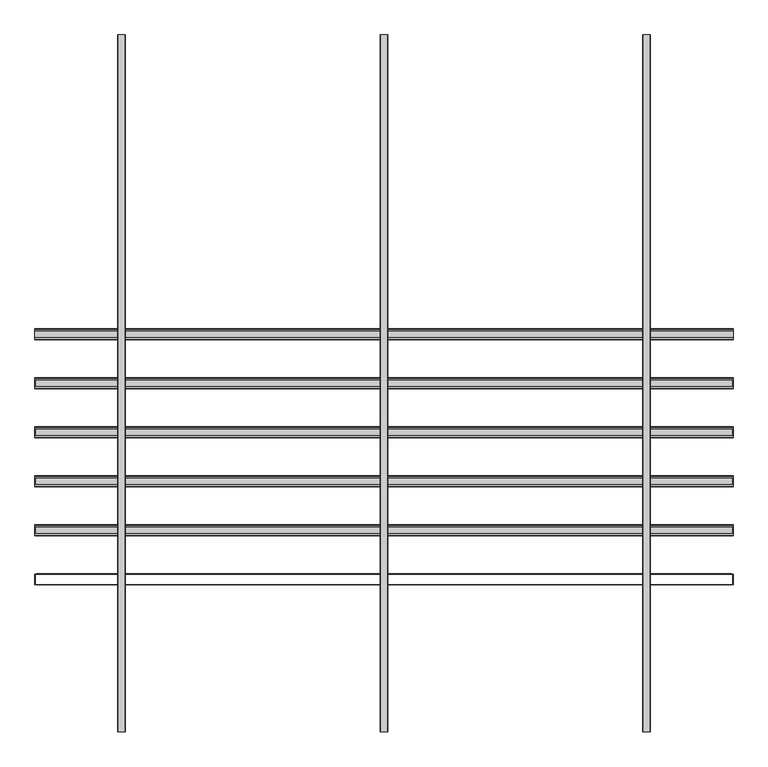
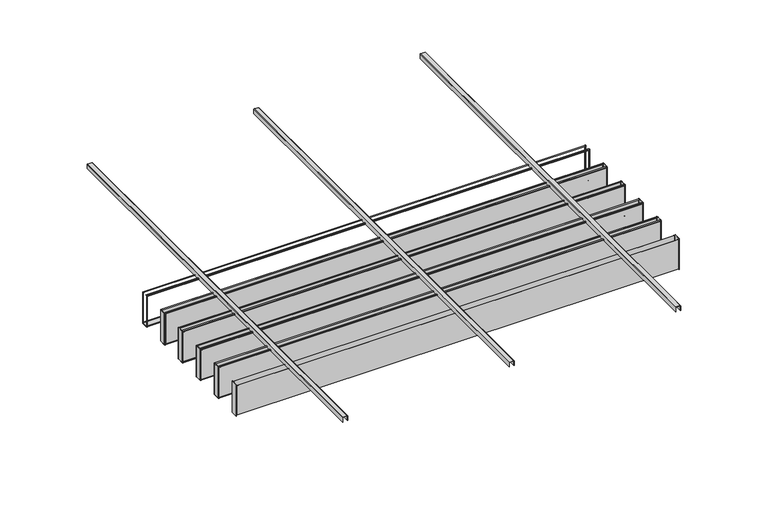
"""IFC4 building model written with IfcOpenShell, lengths in millimetres: proxy geometry, durlum_POLYLAM : durlum_POLYLAM 63."""

from ifc_helpers import new_model, si_unit, point, frame, frame_2d, origin, place, context, project, spatial, polyline, circle_curve, trimmed, segment, composite_curve, outline, extrude, source, transform, mapped, element, save
from ifc_brep_helpers import plane_surface, cylinder_surface, advanced_brep


def generic_models_d3921d50(model_context):
    return source(origin(), model_context, "Body", "SolidModel", [
        advanced_brep(
        [(1995.0, 309.5, 2016.9), (1995.0, 299.5, 2016.9), (1995.0, 299.5, 2015.9), (1995.0, 310.5, 2015.9), (1995.0, 310.5, 1717.9), (1995.0, 249.5, 1717.9), (1995.0, 249.5, 2015.8155735), (1995.0, 260.5, 2015.8155735), (1995.0, 260.5, 2016.9), (1995.0, 250.5, 2016.9), (1995.0, 248.5, 2014.9), (1995.0, 248.5, 1718.9), (1995.0, 250.5, 1716.9), (1995.0, 309.5, 1716.9), (1995.0, 311.5, 1718.9), (1995.0, 311.5, 2014.9), (-1995.0, 309.5, 2016.9), (-1995.0, 311.5, 2014.9), (-1995.0, 311.5, 1718.9), (-1995.0, 309.5, 1716.9), (-1995.0, 250.5, 1716.9), (-1995.0, 248.5, 1718.9), (-1995.0, 248.5, 2014.9), (-1995.0, 250.5, 2016.9), (-1995.0, 260.5, 2016.9), (-1995.0, 260.5, 2015.8155735), (-1995.0, 249.5, 2015.8155735), (-1995.0, 249.5, 1717.9), (-1995.0, 310.5, 1717.9), (-1995.0, 310.5, 2015.9), (-1995.0, 299.5, 2015.9), (-1995.0, 299.5, 2016.9), (-1986.5, 310.5, 2008.4), (1986.5, 310.5, 2008.4), (1986.5, 310.5, 1725.4), (-1986.5, 310.5, 1725.4), (1986.5, 249.5, 2008.4), (-1986.5, 249.5, 2008.4), (-1986.5, 249.5, 1725.4), (1986.5, 249.5, 1725.4), (-1986.5, 248.5, 2008.4), (1986.5, 248.5, 2008.4), (1986.5, 248.5, 1725.4), (-1986.5, 248.5, 1725.4), (1986.5, 311.5, 2008.4), (-1986.5, 311.5, 2008.4), (-1986.5, 311.5, 1725.4), (1986.5, 311.5, 1725.4)],
        [
            (0, 1),
            (1, 2),
            (2, 3),
            (3, 4),
            (4, 5),
            (5, 6),
            (6, 7),
            (7, 8),
            (8, 9),
            (9, 10, circle_curve(frame((1995.0, 250.5, 2014.9), z_axis=(1.0, 0.0, 0.0), x_axis=(0.0, 1.0, 0.0)), 2.0)),
            (10, 11),
            (11, 12, circle_curve(frame((1995.0, 250.5, 1718.9), z_axis=(1.0, 0.0, 0.0), x_axis=(0.0, 1.0, 0.0)), 2.0)),
            (12, 13),
            (13, 14, circle_curve(frame((1995.0, 309.5, 1718.9), z_axis=(1.0, 0.0, 0.0), x_axis=(0.0, 1.0, 0.0)), 2.0)),
            (14, 15),
            (15, 0, circle_curve(frame((1995.0, 309.5, 2014.9), z_axis=(1.0, 0.0, 0.0), x_axis=(0.0, 1.0, 0.0)), 2.0)),
            (16, 17, circle_curve(frame((-1995.0, 309.5, 2014.9), z_axis=(-1.0, 0.0, 0.0), x_axis=(0.0, 1.0, 0.0)), 2.0)),
            (17, 18),
            (18, 19, circle_curve(frame((-1995.0, 309.5, 1718.9), z_axis=(-1.0, 0.0, 0.0), x_axis=(0.0, 1.0, 0.0)), 2.0)),
            (19, 20),
            (20, 21, circle_curve(frame((-1995.0, 250.5, 1718.9), z_axis=(-1.0, 0.0, 0.0), x_axis=(0.0, 1.0, 0.0)), 2.0)),
            (21, 22),
            (22, 23, circle_curve(frame((-1995.0, 250.5, 2014.9), z_axis=(-1.0, 0.0, 0.0), x_axis=(0.0, 1.0, 0.0)), 2.0)),
            (23, 24),
            (24, 25),
            (25, 26),
            (26, 27),
            (27, 28),
            (28, 29),
            (29, 30),
            (30, 31),
            (31, 16),
            (0, 16),
            (31, 1),
            (30, 2),
            (29, 3),
            (28, 4),
            (32, 33),
            (33, 34),
            (34, 35),
            (35, 32),
            (27, 5),
            (26, 6),
            (36, 37),
            (37, 38),
            (38, 39),
            (39, 36),
            (25, 7),
            (24, 8),
            (23, 9),
            (10, 22),
            (21, 11),
            (40, 41),
            (41, 42),
            (42, 43),
            (43, 40),
            (12, 20),
            (19, 13),
            (14, 18),
            (17, 15),
            (44, 45),
            (45, 46),
            (46, 47),
            (47, 44),
            (44, 33),
            (32, 45),
            (36, 41),
            (40, 37),
            (35, 46),
            (43, 38),
            (34, 47),
            (42, 39),
        ],
        [
            plane_surface(frame((1995.0, 299.5, 2016.9), z_axis=(1.0, 0.0, 0.0), x_axis=(0.0, -1.0, 0.0))),
            plane_surface(frame((-1995.0, 299.5, 2016.9), z_axis=(-1.0, 0.0, 0.0), x_axis=(0.0, 1.0, 0.0))),
            plane_surface(frame((1995.0, 309.5, 2016.9), z_axis=(0.0, 0.0, 1.0), x_axis=(-1.0, 0.0, 0.0))),
            plane_surface(frame((1995.0, 299.5, 2016.9), z_axis=(0.0, -1.0, 0.0), x_axis=(-1.0, 0.0, 0.0))),
            plane_surface(frame((1995.0, 299.5, 2015.9), z_axis=(0.0, 0.0, -1.0), x_axis=(-1.0, 0.0, 0.0))),
            plane_surface(frame((1995.0, 310.5, 2015.9), z_axis=(0.0, -1.0, 0.0), x_axis=(-1.0, 0.0, 0.0))),
            plane_surface(frame((1995.0, 310.5, 1717.9), z_axis=(0.0, 0.0, 1.0), x_axis=(-1.0, 0.0, 0.0))),
            plane_surface(frame((1995.0, 249.5, 1717.9), z_axis=(0.0, 1.0, 0.0), x_axis=(-1.0, 0.0, 0.0))),
            plane_surface(frame((1995.0, 249.5, 2015.8155735), z_axis=(0.0, 0.0, -1.0), x_axis=(-1.0, 0.0, 0.0))),
            plane_surface(frame((1995.0, 260.5, 2015.8155735), z_axis=(0.0, 1.0, 0.0), x_axis=(-1.0, 0.0, 0.0))),
            plane_surface(frame((1995.0, 260.5, 2016.9), z_axis=(0.0, 0.0, 1.0), x_axis=(-1.0, 0.0, 0.0))),
            plane_surface(frame((1995.0, 248.5, 2014.9), z_axis=(0.0, -1.0, 0.0), x_axis=(-1.0, 0.0, 0.0))),
            plane_surface(frame((1995.0, 250.5, 1716.9), z_axis=(0.0, 0.0, -1.0), x_axis=(-1.0, 0.0, 0.0))),
            plane_surface(frame((1995.0, 311.5, 1718.9), z_axis=(0.0, 1.0, 0.0), x_axis=(-1.0, 0.0, 0.0))),
            cylinder_surface(frame((-1995.0, 250.5, 2014.9), z_axis=(1.0, 0.0, 0.0), x_axis=(0.0, 1.0, 0.0)), 2.0),
            cylinder_surface(frame((-1995.0, 250.5, 1718.9), z_axis=(1.0, 0.0, 0.0), x_axis=(0.0, 1.0, 0.0)), 2.0),
            cylinder_surface(frame((-1995.0, 309.5, 1718.9), z_axis=(1.0, 0.0, 0.0), x_axis=(0.0, 1.0, 0.0)), 2.0),
            cylinder_surface(frame((-1995.0, 309.5, 2014.9), z_axis=(1.0, 0.0, 0.0), x_axis=(0.0, 1.0, 0.0)), 2.0),
            plane_surface(frame((1986.5, 248.5, 2008.4), z_axis=(0.0, 0.0, -1.0), x_axis=(0.0, 1.0, 0.0))),
            plane_surface(frame((-1986.5, 248.5, 2008.4), z_axis=(1.0, 0.0, 0.0), x_axis=(0.0, 1.0, 0.0))),
            plane_surface(frame((-1986.5, 248.5, 1725.4), z_axis=(0.0, 0.0, 1.0), x_axis=(0.0, 1.0, 0.0))),
            plane_surface(frame((1986.5, 248.5, 1725.4), z_axis=(-1.0, 0.0, 0.0), x_axis=(0.0, 1.0, 0.0))),
        ],
        [
            (0, [[1, 2, 3, 4, 5, 6, 7, 8, 9, 10, 11, 12, 13, 14, 15, 16]]),
            (1, [[17, 18, 19, 20, 21, 22, 23, 24, 25, 26, 27, 28, 29, 30, 31, 32]]),
            (2, [[-1, 33, -32, 34]]),
            (3, [[-2, -34, -31, 35]]),
            (4, [[-3, -35, -30, 36]]),
            (5, [[-4, -36, -29, 37], [38, 39, 40, 41]]),
            (6, [[-5, -37, -28, 42]]),
            (7, [[-6, -42, -27, 43], [44, 45, 46, 47]]),
            (8, [[-7, -43, -26, 48]]),
            (9, [[-8, -48, -25, 49]]),
            (10, [[-9, -49, -24, 50]]),
            (11, [[-11, 51, -22, 52], [53, 54, 55, 56]]),
            (12, [[-13, 57, -20, 58]]),
            (13, [[-15, 59, -18, 60], [61, 62, 63, 64]]),
            (14, [[-10, -50, -23, -51]]),
            (15, [[-12, -52, -21, -57]]),
            (16, [[-14, -58, -19, -59]]),
            (17, [[-16, -60, -17, -33]]),
            (18, [[65, -38, 66, -61]]),
            (18, [[67, -53, 68, -44]]),
            (19, [[-66, -41, 69, -62]]),
            (19, [[-68, -56, 70, -45]]),
            (20, [[-69, -40, 71, -63]]),
            (20, [[-70, -55, 72, -46]]),
            (21, [[-65, -64, -71, -39]]),
            (21, [[-67, -47, -72, -54]]),
        ],
    ),
        extrude(outline(composite_curve([segment(polyline([(2005.0, 22.5), (2047.0, 22.5)]), True, "CONTINUOUS"), segment(trimmed(circle_curve(frame_2d((2047.0, 19.5)), 3.0), [point((2047.0, 22.5))], [point((2050.0, 19.5))], False, "CARTESIAN"), True, "CONTINUOUS"), segment(polyline([(2050.0, 19.5), (2050.0, -19.5)]), True, "CONTINUOUS"), segment(trimmed(circle_curve(frame_2d((2047.0, -19.5)), 3.0), [point((2050.0, -19.5))], [point((2047.0, -22.5))], False, "CARTESIAN"), True, "CONTINUOUS"), segment(polyline([(2047.0, -22.5), (2005.0, -22.5), (2005.0, -21.0), (2047.0, -21.0)]), True, "CONTINUOUS"), segment(trimmed(circle_curve(frame_2d((2047.0, -19.5)), 1.5), [point((2047.0, -21.0))], [point((2048.5, -19.5))], True, "CARTESIAN"), True, "CONTINUOUS"), segment(polyline([(2048.5, -19.5), (2048.5, 19.5)]), True, "CONTINUOUS"), segment(trimmed(circle_curve(frame_2d((2047.0, 19.5)), 1.5), [point((2048.5, 19.5))], [point((2047.0, 21.0))], True, "CARTESIAN"), True, "CONTINUOUS"), segment(polyline([(2047.0, 21.0), (2005.0, 21.0), (2005.0, 22.5)]), True, "CONTINUOUS")], self_intersect=False)), frame((0.0, -1991.5, 0.0), z_axis=(0.0, 1.0, 0.0), x_axis=(0.0, 0.0, 1.0)), (0.0, 0.0, 1.0), 3983.0),
        extrude(outline(composite_curve([segment(polyline([(2005.0, -1477.5), (2047.0, -1477.5)]), True, "CONTINUOUS"), segment(trimmed(circle_curve(frame_2d((2047.0, -1480.5)), 3.0), [point((2047.0, -1477.5))], [point((2050.0, -1480.5))], False, "CARTESIAN"), True, "CONTINUOUS"), segment(polyline([(2050.0, -1480.5), (2050.0, -1519.5)]), True, "CONTINUOUS"), segment(trimmed(circle_curve(frame_2d((2047.0, -1519.5)), 3.0), [point((2050.0, -1519.5))], [point((2047.0, -1522.5))], False, "CARTESIAN"), True, "CONTINUOUS"), segment(polyline([(2047.0, -1522.5), (2005.0, -1522.5), (2005.0, -1521.0), (2047.0, -1521.0)]), True, "CONTINUOUS"), segment(trimmed(circle_curve(frame_2d((2047.0, -1519.5)), 1.5), [point((2047.0, -1521.0))], [point((2048.5, -1519.5))], True, "CARTESIAN"), True, "CONTINUOUS"), segment(polyline([(2048.5, -1519.5), (2048.5, -1480.5)]), True, "CONTINUOUS"), segment(trimmed(circle_curve(frame_2d((2047.0, -1480.5)), 1.5), [point((2048.5, -1480.5))], [point((2047.0, -1479.0))], True, "CARTESIAN"), True, "CONTINUOUS"), segment(polyline([(2047.0, -1479.0), (2005.0, -1479.0), (2005.0, -1477.5)]), True, "CONTINUOUS")], self_intersect=False)), frame((0.0, -1991.5, 0.0), z_axis=(0.0, 1.0, 0.0), x_axis=(0.0, 0.0, 1.0)), (0.0, 0.0, 1.0), 3983.0),
        extrude(outline(composite_curve([segment(polyline([(2005.0, 1522.5), (2047.0, 1522.5)]), True, "CONTINUOUS"), segment(trimmed(circle_curve(frame_2d((2047.0, 1519.5)), 3.0), [point((2047.0, 1522.5))], [point((2050.0, 1519.5))], False, "CARTESIAN"), True, "CONTINUOUS"), segment(polyline([(2050.0, 1519.5), (2050.0, 1480.5)]), True, "CONTINUOUS"), segment(trimmed(circle_curve(frame_2d((2047.0, 1480.5)), 3.0), [point((2050.0, 1480.5))], [point((2047.0, 1477.5))], False, "CARTESIAN"), True, "CONTINUOUS"), segment(polyline([(2047.0, 1477.5), (2005.0, 1477.5), (2005.0, 1479.0), (2047.0, 1479.0)]), True, "CONTINUOUS"), segment(trimmed(circle_curve(frame_2d((2047.0, 1480.5)), 1.5), [point((2047.0, 1479.0))], [point((2048.5, 1480.5))], True, "CARTESIAN"), True, "CONTINUOUS"), segment(polyline([(2048.5, 1480.5), (2048.5, 1519.5)]), True, "CONTINUOUS"), segment(trimmed(circle_curve(frame_2d((2047.0, 1519.5)), 1.5), [point((2048.5, 1519.5))], [point((2047.0, 1521.0))], True, "CARTESIAN"), True, "CONTINUOUS"), segment(polyline([(2047.0, 1521.0), (2005.0, 1521.0), (2005.0, 1522.5)]), True, "CONTINUOUS")], self_intersect=False)), frame((0.0, -1991.5, 0.0), z_axis=(0.0, 1.0, 0.0), x_axis=(0.0, 0.0, 1.0)), (0.0, 0.0, 1.0), 3983.0),
        extrude(outline(polyline([(1986.5, 30.5), (-1986.5, 30.5), (-1986.5, 31.5), (1986.5, 31.5), (1986.5, 30.5)])), frame((0.0, 0.0, 1725.4), z_axis=(0.0, 0.0, 1.0), x_axis=(1.0, 0.0, 0.0)), (0.0, 0.0, 1.0), 283.0),
        extrude(outline(polyline([(1986.5, -31.5), (-1986.5, -31.5), (-1986.5, -30.5), (1986.5, -30.5), (1986.5, -31.5)])), frame((0.0, 0.0, 1725.4), z_axis=(0.0, 0.0, 1.0), x_axis=(1.0, 0.0, 0.0)), (0.0, 0.0, 1.0), 283.0),
        extrude(outline(polyline([(1993.0, 30.5), (1995.0, 30.5), (1995.0, -30.5), (1993.0, -30.5), (1993.0, 30.5)])), frame((0.0, 0.0, 1717.9), z_axis=(0.0, 0.0, 1.0), x_axis=(1.0, 0.0, 0.0)), (0.0, 0.0, 1.0), 298.0),
        extrude(outline(polyline([(-1995.0, 30.5), (-1993.0, 30.5), (-1993.0, -30.5), (-1995.0, -30.5), (-1995.0, 30.5)])), frame((0.0, 0.0, 1717.9), z_axis=(0.0, 0.0, 1.0), x_axis=(1.0, 0.0, 0.0)), (0.0, 0.0, 1.0), 298.0),
        advanced_brep(
        [(1995.0, 29.5, 2016.9), (1995.0, 19.5, 2016.9), (1995.0, 19.5, 2015.9), (1995.0, 30.5, 2015.9), (1995.0, 30.5, 1717.9), (1995.0, -30.5, 1717.9), (1995.0, -30.5, 2015.8155735), (1995.0, -19.5, 2015.8155735), (1995.0, -19.5, 2016.9), (1995.0, -29.5, 2016.9), (1995.0, -31.5, 2014.9), (1995.0, -31.5, 1718.9), (1995.0, -29.5, 1716.9), (1995.0, 29.5, 1716.9), (1995.0, 31.5, 1718.9), (1995.0, 31.5, 2014.9), (-1995.0, 29.5, 2016.9), (-1995.0, 31.5, 2014.9), (-1995.0, 31.5, 1718.9), (-1995.0, 29.5, 1716.9), (-1995.0, -29.5, 1716.9), (-1995.0, -31.5, 1718.9), (-1995.0, -31.5, 2014.9), (-1995.0, -29.5, 2016.9), (-1995.0, -19.5, 2016.9), (-1995.0, -19.5, 2015.8155735), (-1995.0, -30.5, 2015.8155735), (-1995.0, -30.5, 1717.9), (-1995.0, 30.5, 1717.9), (-1995.0, 30.5, 2015.9), (-1995.0, 19.5, 2015.9), (-1995.0, 19.5, 2016.9), (-1986.5, 30.5, 2008.4), (1986.5, 30.5, 2008.4), (1986.5, 30.5, 1725.4), (-1986.5, 30.5, 1725.4), (1986.5, -30.5, 2008.4), (-1986.5, -30.5, 2008.4), (-1986.5, -30.5, 1725.4), (1986.5, -30.5, 1725.4), (-1986.5, -31.5, 2008.4), (1986.5, -31.5, 2008.4), (1986.5, -31.5, 1725.4), (-1986.5, -31.5, 1725.4), (1986.5, 31.5, 2008.4), (-1986.5, 31.5, 2008.4), (-1986.5, 31.5, 1725.4), (1986.5, 31.5, 1725.4)],
        [
            (0, 1),
            (1, 2),
            (2, 3),
            (3, 4),
            (4, 5),
            (5, 6),
            (6, 7),
            (7, 8),
            (8, 9),
            (9, 10, circle_curve(frame((1995.0, -29.5, 2014.9), z_axis=(1.0, 0.0, 0.0), x_axis=(0.0, 1.0, 0.0)), 2.0)),
            (10, 11),
            (11, 12, circle_curve(frame((1995.0, -29.5, 1718.9), z_axis=(1.0, 0.0, 0.0), x_axis=(0.0, 1.0, 0.0)), 2.0)),
            (12, 13),
            (13, 14, circle_curve(frame((1995.0, 29.5, 1718.9), z_axis=(1.0, 0.0, 0.0), x_axis=(0.0, 1.0, 0.0)), 2.0)),
            (14, 15),
            (15, 0, circle_curve(frame((1995.0, 29.5, 2014.9), z_axis=(1.0, 0.0, 0.0), x_axis=(0.0, 1.0, 0.0)), 2.0)),
            (16, 17, circle_curve(frame((-1995.0, 29.5, 2014.9), z_axis=(-1.0, 0.0, 0.0), x_axis=(0.0, 1.0, 0.0)), 2.0)),
            (17, 18),
            (18, 19, circle_curve(frame((-1995.0, 29.5, 1718.9), z_axis=(-1.0, 0.0, 0.0), x_axis=(0.0, 1.0, 0.0)), 2.0)),
            (19, 20),
            (20, 21, circle_curve(frame((-1995.0, -29.5, 1718.9), z_axis=(-1.0, 0.0, 0.0), x_axis=(0.0, 1.0, 0.0)), 2.0)),
            (21, 22),
            (22, 23, circle_curve(frame((-1995.0, -29.5, 2014.9), z_axis=(-1.0, 0.0, 0.0), x_axis=(0.0, 1.0, 0.0)), 2.0)),
            (23, 24),
            (24, 25),
            (25, 26),
            (26, 27),
            (27, 28),
            (28, 29),
            (29, 30),
            (30, 31),
            (31, 16),
            (0, 16),
            (31, 1),
            (30, 2),
            (29, 3),
            (28, 4),
            (32, 33),
            (33, 34),
            (34, 35),
            (35, 32),
            (27, 5),
            (26, 6),
            (36, 37),
            (37, 38),
            (38, 39),
            (39, 36),
            (25, 7),
            (24, 8),
            (23, 9),
            (10, 22),
            (21, 11),
            (40, 41),
            (41, 42),
            (42, 43),
            (43, 40),
            (12, 20),
            (19, 13),
            (14, 18),
            (17, 15),
            (44, 45),
            (45, 46),
            (46, 47),
            (47, 44),
            (44, 33),
            (32, 45),
            (36, 41),
            (40, 37),
            (35, 46),
            (43, 38),
            (34, 47),
            (42, 39),
        ],
        [
            plane_surface(frame((1995.0, 19.5, 2016.9), z_axis=(1.0, 0.0, 0.0), x_axis=(0.0, -1.0, 0.0))),
            plane_surface(frame((-1995.0, 19.5, 2016.9), z_axis=(-1.0, 0.0, 0.0), x_axis=(0.0, 1.0, 0.0))),
            plane_surface(frame((1995.0, 29.5, 2016.9), z_axis=(0.0, 0.0, 1.0), x_axis=(-1.0, 0.0, 0.0))),
            plane_surface(frame((1995.0, 19.5, 2016.9), z_axis=(0.0, -1.0, 0.0), x_axis=(-1.0, 0.0, 0.0))),
            plane_surface(frame((1995.0, 19.5, 2015.9), z_axis=(0.0, 0.0, -1.0), x_axis=(-1.0, 0.0, 0.0))),
            plane_surface(frame((1995.0, 30.5, 2015.9), z_axis=(0.0, -1.0, 0.0), x_axis=(-1.0, 0.0, 0.0))),
            plane_surface(frame((1995.0, 30.5, 1717.9), z_axis=(0.0, 0.0, 1.0), x_axis=(-1.0, 0.0, 0.0))),
            plane_surface(frame((1995.0, -30.5, 1717.9), z_axis=(0.0, 1.0, 0.0), x_axis=(-1.0, 0.0, 0.0))),
            plane_surface(frame((1995.0, -30.5, 2015.8155735), z_axis=(0.0, 0.0, -1.0), x_axis=(-1.0, 0.0, 0.0))),
            plane_surface(frame((1995.0, -19.5, 2015.8155735), z_axis=(0.0, 1.0, 0.0), x_axis=(-1.0, 0.0, 0.0))),
            plane_surface(frame((1995.0, -19.5, 2016.9), z_axis=(0.0, 0.0, 1.0), x_axis=(-1.0, 0.0, 0.0))),
            plane_surface(frame((1995.0, -31.5, 2014.9), z_axis=(0.0, -1.0, 0.0), x_axis=(-1.0, 0.0, 0.0))),
            plane_surface(frame((1995.0, -29.5, 1716.9), z_axis=(0.0, 0.0, -1.0), x_axis=(-1.0, 0.0, 0.0))),
            plane_surface(frame((1995.0, 31.5, 1718.9), z_axis=(0.0, 1.0, 0.0), x_axis=(-1.0, 0.0, 0.0))),
            cylinder_surface(frame((-1995.0, -29.5, 2014.9), z_axis=(1.0, 0.0, 0.0), x_axis=(0.0, 1.0, 0.0)), 2.0),
            cylinder_surface(frame((-1995.0, -29.5, 1718.9), z_axis=(1.0, 0.0, 0.0), x_axis=(0.0, 1.0, 0.0)), 2.0),
            cylinder_surface(frame((-1995.0, 29.5, 1718.9), z_axis=(1.0, 0.0, 0.0), x_axis=(0.0, 1.0, 0.0)), 2.0),
            cylinder_surface(frame((-1995.0, 29.5, 2014.9), z_axis=(1.0, 0.0, 0.0), x_axis=(0.0, 1.0, 0.0)), 2.0),
            plane_surface(frame((1986.5, -31.5, 2008.4), z_axis=(0.0, 0.0, -1.0), x_axis=(0.0, 1.0, 0.0))),
            plane_surface(frame((-1986.5, -31.5, 2008.4), z_axis=(1.0, 0.0, 0.0), x_axis=(0.0, 1.0, 0.0))),
            plane_surface(frame((-1986.5, -31.5, 1725.4), z_axis=(0.0, 0.0, 1.0), x_axis=(0.0, 1.0, 0.0))),
            plane_surface(frame((1986.5, -31.5, 1725.4), z_axis=(-1.0, 0.0, 0.0), x_axis=(0.0, 1.0, 0.0))),
        ],
        [
            (0, [[1, 2, 3, 4, 5, 6, 7, 8, 9, 10, 11, 12, 13, 14, 15, 16]]),
            (1, [[17, 18, 19, 20, 21, 22, 23, 24, 25, 26, 27, 28, 29, 30, 31, 32]]),
            (2, [[-1, 33, -32, 34]]),
            (3, [[-2, -34, -31, 35]]),
            (4, [[-3, -35, -30, 36]]),
            (5, [[-4, -36, -29, 37], [38, 39, 40, 41]]),
            (6, [[-5, -37, -28, 42]]),
            (7, [[-6, -42, -27, 43], [44, 45, 46, 47]]),
            (8, [[-7, -43, -26, 48]]),
            (9, [[-8, -48, -25, 49]]),
            (10, [[-9, -49, -24, 50]]),
            (11, [[-11, 51, -22, 52], [53, 54, 55, 56]]),
            (12, [[-13, 57, -20, 58]]),
            (13, [[-15, 59, -18, 60], [61, 62, 63, 64]]),
            (14, [[-10, -50, -23, -51]]),
            (15, [[-12, -52, -21, -57]]),
            (16, [[-14, -58, -19, -59]]),
            (17, [[-16, -60, -17, -33]]),
            (18, [[65, -38, 66, -61]]),
            (18, [[67, -53, 68, -44]]),
            (19, [[-66, -41, 69, -62]]),
            (19, [[-68, -56, 70, -45]]),
            (20, [[-69, -40, 71, -63]]),
            (20, [[-70, -55, 72, -46]]),
            (21, [[-65, -64, -71, -39]]),
            (21, [[-67, -47, -72, -54]]),
        ],
    ),
        extrude(outline(polyline([(1986.5, -249.5), (-1986.5, -249.5), (-1986.5, -248.5), (1986.5, -248.5), (1986.5, -249.5)])), frame((0.0, 0.0, 1725.4), z_axis=(0.0, 0.0, 1.0), x_axis=(1.0, 0.0, 0.0)), (0.0, 0.0, 1.0), 283.0),
        extrude(outline(polyline([(1986.5, -311.5), (-1986.5, -311.5), (-1986.5, -310.5), (1986.5, -310.5), (1986.5, -311.5)])), frame((0.0, 0.0, 1725.4), z_axis=(0.0, 0.0, 1.0), x_axis=(1.0, 0.0, 0.0)), (0.0, 0.0, 1.0), 283.0),
        extrude(outline(polyline([(1993.0, -249.5), (1995.0, -249.5), (1995.0, -310.5), (1993.0, -310.5), (1993.0, -249.5)])), frame((0.0, 0.0, 1717.9), z_axis=(0.0, 0.0, 1.0), x_axis=(1.0, 0.0, 0.0)), (0.0, 0.0, 1.0), 298.0),
        extrude(outline(polyline([(-1995.0, -249.5), (-1993.0, -249.5), (-1993.0, -310.5), (-1995.0, -310.5), (-1995.0, -249.5)])), frame((0.0, 0.0, 1717.9), z_axis=(0.0, 0.0, 1.0), x_axis=(1.0, 0.0, 0.0)), (0.0, 0.0, 1.0), 298.0),
        advanced_brep(
        [(1995.0, -250.5, 2016.9), (1995.0, -260.5, 2016.9), (1995.0, -260.5, 2015.9), (1995.0, -249.5, 2015.9), (1995.0, -249.5, 1717.9), (1995.0, -310.5, 1717.9), (1995.0, -310.5, 2015.8155735), (1995.0, -299.5, 2015.8155735), (1995.0, -299.5, 2016.9), (1995.0, -309.5, 2016.9), (1995.0, -311.5, 2014.9), (1995.0, -311.5, 1718.9), (1995.0, -309.5, 1716.9), (1995.0, -250.5, 1716.9), (1995.0, -248.5, 1718.9), (1995.0, -248.5, 2014.9), (-1995.0, -250.5, 2016.9), (-1995.0, -248.5, 2014.9), (-1995.0, -248.5, 1718.9), (-1995.0, -250.5, 1716.9), (-1995.0, -309.5, 1716.9), (-1995.0, -311.5, 1718.9), (-1995.0, -311.5, 2014.9), (-1995.0, -309.5, 2016.9), (-1995.0, -299.5, 2016.9), (-1995.0, -299.5, 2015.8155735), (-1995.0, -310.5, 2015.8155735), (-1995.0, -310.5, 1717.9), (-1995.0, -249.5, 1717.9), (-1995.0, -249.5, 2015.9), (-1995.0, -260.5, 2015.9), (-1995.0, -260.5, 2016.9), (-1986.5, -249.5, 2008.4), (1986.5, -249.5, 2008.4), (1986.5, -249.5, 1725.4), (-1986.5, -249.5, 1725.4), (1986.5, -310.5, 2008.4), (-1986.5, -310.5, 2008.4), (-1986.5, -310.5, 1725.4), (1986.5, -310.5, 1725.4), (-1986.5, -311.5, 2008.4), (1986.5, -311.5, 2008.4), (1986.5, -311.5, 1725.4), (-1986.5, -311.5, 1725.4), (1986.5, -248.5, 2008.4), (-1986.5, -248.5, 2008.4), (-1986.5, -248.5, 1725.4), (1986.5, -248.5, 1725.4)],
        [
            (0, 1),
            (1, 2),
            (2, 3),
            (3, 4),
            (4, 5),
            (5, 6),
            (6, 7),
            (7, 8),
            (8, 9),
            (9, 10, circle_curve(frame((1995.0, -309.5, 2014.9), z_axis=(1.0, 0.0, 0.0), x_axis=(0.0, 1.0, 0.0)), 2.0)),
            (10, 11),
            (11, 12, circle_curve(frame((1995.0, -309.5, 1718.9), z_axis=(1.0, 0.0, 0.0), x_axis=(0.0, 1.0, 0.0)), 2.0)),
            (12, 13),
            (13, 14, circle_curve(frame((1995.0, -250.5, 1718.9), z_axis=(1.0, 0.0, 0.0), x_axis=(0.0, 1.0, 0.0)), 2.0)),
            (14, 15),
            (15, 0, circle_curve(frame((1995.0, -250.5, 2014.9), z_axis=(1.0, 0.0, 0.0), x_axis=(0.0, 1.0, 0.0)), 2.0)),
            (16, 17, circle_curve(frame((-1995.0, -250.5, 2014.9), z_axis=(-1.0, 0.0, 0.0), x_axis=(0.0, 1.0, 0.0)), 2.0)),
            (17, 18),
            (18, 19, circle_curve(frame((-1995.0, -250.5, 1718.9), z_axis=(-1.0, 0.0, 0.0), x_axis=(0.0, 1.0, 0.0)), 2.0)),
            (19, 20),
            (20, 21, circle_curve(frame((-1995.0, -309.5, 1718.9), z_axis=(-1.0, 0.0, 0.0), x_axis=(0.0, 1.0, 0.0)), 2.0)),
            (21, 22),
            (22, 23, circle_curve(frame((-1995.0, -309.5, 2014.9), z_axis=(-1.0, 0.0, 0.0), x_axis=(0.0, 1.0, 0.0)), 2.0)),
            (23, 24),
            (24, 25),
            (25, 26),
            (26, 27),
            (27, 28),
            (28, 29),
            (29, 30),
            (30, 31),
            (31, 16),
            (0, 16),
            (31, 1),
            (30, 2),
            (29, 3),
            (28, 4),
            (32, 33),
            (33, 34),
            (34, 35),
            (35, 32),
            (27, 5),
            (26, 6),
            (36, 37),
            (37, 38),
            (38, 39),
            (39, 36),
            (25, 7),
            (24, 8),
            (23, 9),
            (10, 22),
            (21, 11),
            (40, 41),
            (41, 42),
            (42, 43),
            (43, 40),
            (12, 20),
            (19, 13),
            (14, 18),
            (17, 15),
            (44, 45),
            (45, 46),
            (46, 47),
            (47, 44),
            (44, 33),
            (32, 45),
            (36, 41),
            (40, 37),
            (35, 46),
            (43, 38),
            (34, 47),
            (42, 39),
        ],
        [
            plane_surface(frame((1995.0, -260.5, 2016.9), z_axis=(1.0, 0.0, 0.0), x_axis=(0.0, -1.0, 0.0))),
            plane_surface(frame((-1995.0, -260.5, 2016.9), z_axis=(-1.0, 0.0, 0.0), x_axis=(0.0, 1.0, 0.0))),
            plane_surface(frame((1995.0, -250.5, 2016.9), z_axis=(0.0, 0.0, 1.0), x_axis=(-1.0, 0.0, 0.0))),
            plane_surface(frame((1995.0, -260.5, 2016.9), z_axis=(0.0, -1.0, 0.0), x_axis=(-1.0, 0.0, 0.0))),
            plane_surface(frame((1995.0, -260.5, 2015.9), z_axis=(0.0, 0.0, -1.0), x_axis=(-1.0, 0.0, 0.0))),
            plane_surface(frame((1995.0, -249.5, 2015.9), z_axis=(0.0, -1.0, 0.0), x_axis=(-1.0, 0.0, 0.0))),
            plane_surface(frame((1995.0, -249.5, 1717.9), z_axis=(0.0, 0.0, 1.0), x_axis=(-1.0, 0.0, 0.0))),
            plane_surface(frame((1995.0, -310.5, 1717.9), z_axis=(0.0, 1.0, 0.0), x_axis=(-1.0, 0.0, 0.0))),
            plane_surface(frame((1995.0, -310.5, 2015.8155735), z_axis=(0.0, 0.0, -1.0), x_axis=(-1.0, 0.0, 0.0))),
            plane_surface(frame((1995.0, -299.5, 2015.8155735), z_axis=(0.0, 1.0, 0.0), x_axis=(-1.0, 0.0, 0.0))),
            plane_surface(frame((1995.0, -299.5, 2016.9), z_axis=(0.0, 0.0, 1.0), x_axis=(-1.0, 0.0, 0.0))),
            plane_surface(frame((1995.0, -311.5, 2014.9), z_axis=(0.0, -1.0, 0.0), x_axis=(-1.0, 0.0, 0.0))),
            plane_surface(frame((1995.0, -309.5, 1716.9), z_axis=(0.0, 0.0, -1.0), x_axis=(-1.0, 0.0, 0.0))),
            plane_surface(frame((1995.0, -248.5, 1718.9), z_axis=(0.0, 1.0, 0.0), x_axis=(-1.0, 0.0, 0.0))),
            cylinder_surface(frame((-1995.0, -309.5, 2014.9), z_axis=(1.0, 0.0, 0.0), x_axis=(0.0, 1.0, 0.0)), 2.0),
            cylinder_surface(frame((-1995.0, -309.5, 1718.9), z_axis=(1.0, 0.0, 0.0), x_axis=(0.0, 1.0, 0.0)), 2.0),
            cylinder_surface(frame((-1995.0, -250.5, 1718.9), z_axis=(1.0, 0.0, 0.0), x_axis=(0.0, 1.0, 0.0)), 2.0),
            cylinder_surface(frame((-1995.0, -250.5, 2014.9), z_axis=(1.0, 0.0, 0.0), x_axis=(0.0, 1.0, 0.0)), 2.0),
            plane_surface(frame((1986.5, -311.5, 2008.4), z_axis=(0.0, 0.0, -1.0), x_axis=(0.0, 1.0, 0.0))),
            plane_surface(frame((-1986.5, -311.5, 2008.4), z_axis=(1.0, 0.0, 0.0), x_axis=(0.0, 1.0, 0.0))),
            plane_surface(frame((-1986.5, -311.5, 1725.4), z_axis=(0.0, 0.0, 1.0), x_axis=(0.0, 1.0, 0.0))),
            plane_surface(frame((1986.5, -311.5, 1725.4), z_axis=(-1.0, 0.0, 0.0), x_axis=(0.0, 1.0, 0.0))),
        ],
        [
            (0, [[1, 2, 3, 4, 5, 6, 7, 8, 9, 10, 11, 12, 13, 14, 15, 16]]),
            (1, [[17, 18, 19, 20, 21, 22, 23, 24, 25, 26, 27, 28, 29, 30, 31, 32]]),
            (2, [[-1, 33, -32, 34]]),
            (3, [[-2, -34, -31, 35]]),
            (4, [[-3, -35, -30, 36]]),
            (5, [[-4, -36, -29, 37], [38, 39, 40, 41]]),
            (6, [[-5, -37, -28, 42]]),
            (7, [[-6, -42, -27, 43], [44, 45, 46, 47]]),
            (8, [[-7, -43, -26, 48]]),
            (9, [[-8, -48, -25, 49]]),
            (10, [[-9, -49, -24, 50]]),
            (11, [[-11, 51, -22, 52], [53, 54, 55, 56]]),
            (12, [[-13, 57, -20, 58]]),
            (13, [[-15, 59, -18, 60], [61, 62, 63, 64]]),
            (14, [[-10, -50, -23, -51]]),
            (15, [[-12, -52, -21, -57]]),
            (16, [[-14, -58, -19, -59]]),
            (17, [[-16, -60, -17, -33]]),
            (18, [[65, -38, 66, -61]]),
            (18, [[67, -53, 68, -44]]),
            (19, [[-66, -41, 69, -62]]),
            (19, [[-68, -56, 70, -45]]),
            (20, [[-69, -40, 71, -63]]),
            (20, [[-70, -55, 72, -46]]),
            (21, [[-65, -64, -71, -39]]),
            (21, [[-67, -47, -72, -54]]),
        ],
    ),
        extrude(outline(polyline([(1986.5, -529.5), (-1986.5, -529.5), (-1986.5, -528.5), (1986.5, -528.5), (1986.5, -529.5)])), frame((0.0, 0.0, 1725.4), z_axis=(0.0, 0.0, 1.0), x_axis=(1.0, 0.0, 0.0)), (0.0, 0.0, 1.0), 283.0),
        extrude(outline(polyline([(1986.5, -591.5), (-1986.5, -591.5), (-1986.5, -590.5), (1986.5, -590.5), (1986.5, -591.5)])), frame((0.0, 0.0, 1725.4), z_axis=(0.0, 0.0, 1.0), x_axis=(1.0, 0.0, 0.0)), (0.0, 0.0, 1.0), 283.0),
        extrude(outline(polyline([(1993.0, -529.5), (1995.0, -529.5), (1995.0, -590.5), (1993.0, -590.5), (1993.0, -529.5)])), frame((0.0, 0.0, 1717.9), z_axis=(0.0, 0.0, 1.0), x_axis=(1.0, 0.0, 0.0)), (0.0, 0.0, 1.0), 298.0),
        extrude(outline(polyline([(-1995.0, -529.5), (-1993.0, -529.5), (-1993.0, -590.5), (-1995.0, -590.5), (-1995.0, -529.5)])), frame((0.0, 0.0, 1717.9), z_axis=(0.0, 0.0, 1.0), x_axis=(1.0, 0.0, 0.0)), (0.0, 0.0, 1.0), 298.0),
        advanced_brep(
        [(1995.0, -530.5, 2016.9), (1995.0, -540.5, 2016.9), (1995.0, -540.5, 2015.9), (1995.0, -529.5, 2015.9), (1995.0, -529.5, 1717.9), (1995.0, -590.5, 1717.9), (1995.0, -590.5, 2015.8155735), (1995.0, -579.5, 2015.8155735), (1995.0, -579.5, 2016.9), (1995.0, -589.5, 2016.9), (1995.0, -591.5, 2014.9), (1995.0, -591.5, 1718.9), (1995.0, -589.5, 1716.9), (1995.0, -530.5, 1716.9), (1995.0, -528.5, 1718.9), (1995.0, -528.5, 2014.9), (-1995.0, -530.5, 2016.9), (-1995.0, -528.5, 2014.9), (-1995.0, -528.5, 1718.9), (-1995.0, -530.5, 1716.9), (-1995.0, -589.5, 1716.9), (-1995.0, -591.5, 1718.9), (-1995.0, -591.5, 2014.9), (-1995.0, -589.5, 2016.9), (-1995.0, -579.5, 2016.9), (-1995.0, -579.5, 2015.8155735), (-1995.0, -590.5, 2015.8155735), (-1995.0, -590.5, 1717.9), (-1995.0, -529.5, 1717.9), (-1995.0, -529.5, 2015.9), (-1995.0, -540.5, 2015.9), (-1995.0, -540.5, 2016.9), (-1986.5, -529.5, 2008.4), (1986.5, -529.5, 2008.4), (1986.5, -529.5, 1725.4), (-1986.5, -529.5, 1725.4), (1986.5, -590.5, 2008.4), (-1986.5, -590.5, 2008.4), (-1986.5, -590.5, 1725.4), (1986.5, -590.5, 1725.4), (-1986.5, -591.5, 2008.4), (1986.5, -591.5, 2008.4), (1986.5, -591.5, 1725.4), (-1986.5, -591.5, 1725.4), (1986.5, -528.5, 2008.4), (-1986.5, -528.5, 2008.4), (-1986.5, -528.5, 1725.4), (1986.5, -528.5, 1725.4)],
        [
            (0, 1),
            (1, 2),
            (2, 3),
            (3, 4),
            (4, 5),
            (5, 6),
            (6, 7),
            (7, 8),
            (8, 9),
            (9, 10, circle_curve(frame((1995.0, -589.5, 2014.9), z_axis=(1.0, 0.0, 0.0), x_axis=(0.0, 1.0, 0.0)), 2.0)),
            (10, 11),
            (11, 12, circle_curve(frame((1995.0, -589.5, 1718.9), z_axis=(1.0, 0.0, 0.0), x_axis=(0.0, 1.0, 0.0)), 2.0)),
            (12, 13),
            (13, 14, circle_curve(frame((1995.0, -530.5, 1718.9), z_axis=(1.0, 0.0, 0.0), x_axis=(0.0, 1.0, 0.0)), 2.0)),
            (14, 15),
            (15, 0, circle_curve(frame((1995.0, -530.5, 2014.9), z_axis=(1.0, 0.0, 0.0), x_axis=(0.0, 1.0, 0.0)), 2.0)),
            (16, 17, circle_curve(frame((-1995.0, -530.5, 2014.9), z_axis=(-1.0, 0.0, 0.0), x_axis=(0.0, 1.0, 0.0)), 2.0)),
            (17, 18),
            (18, 19, circle_curve(frame((-1995.0, -530.5, 1718.9), z_axis=(-1.0, 0.0, 0.0), x_axis=(0.0, 1.0, 0.0)), 2.0)),
            (19, 20),
            (20, 21, circle_curve(frame((-1995.0, -589.5, 1718.9), z_axis=(-1.0, 0.0, 0.0), x_axis=(0.0, 1.0, 0.0)), 2.0)),
            (21, 22),
            (22, 23, circle_curve(frame((-1995.0, -589.5, 2014.9), z_axis=(-1.0, 0.0, 0.0), x_axis=(0.0, 1.0, 0.0)), 2.0)),
            (23, 24),
            (24, 25),
            (25, 26),
            (26, 27),
            (27, 28),
            (28, 29),
            (29, 30),
            (30, 31),
            (31, 16),
            (0, 16),
            (31, 1),
            (30, 2),
            (29, 3),
            (28, 4),
            (32, 33),
            (33, 34),
            (34, 35),
            (35, 32),
            (27, 5),
            (26, 6),
            (36, 37),
            (37, 38),
            (38, 39),
            (39, 36),
            (25, 7),
            (24, 8),
            (23, 9),
            (10, 22),
            (21, 11),
            (40, 41),
            (41, 42),
            (42, 43),
            (43, 40),
            (12, 20),
            (19, 13),
            (14, 18),
            (17, 15),
            (44, 45),
            (45, 46),
            (46, 47),
            (47, 44),
            (44, 33),
            (32, 45),
            (36, 41),
            (40, 37),
            (35, 46),
            (43, 38),
            (34, 47),
            (42, 39),
        ],
        [
            plane_surface(frame((1995.0, -540.5, 2016.9), z_axis=(1.0, 0.0, 0.0), x_axis=(0.0, -1.0, 0.0))),
            plane_surface(frame((-1995.0, -540.5, 2016.9), z_axis=(-1.0, 0.0, 0.0), x_axis=(0.0, 1.0, 0.0))),
            plane_surface(frame((1995.0, -530.5, 2016.9), z_axis=(0.0, 0.0, 1.0), x_axis=(-1.0, 0.0, 0.0))),
            plane_surface(frame((1995.0, -540.5, 2016.9), z_axis=(0.0, -1.0, 0.0), x_axis=(-1.0, 0.0, 0.0))),
            plane_surface(frame((1995.0, -540.5, 2015.9), z_axis=(0.0, 0.0, -1.0), x_axis=(-1.0, 0.0, 0.0))),
            plane_surface(frame((1995.0, -529.5, 2015.9), z_axis=(0.0, -1.0, 0.0), x_axis=(-1.0, 0.0, 0.0))),
            plane_surface(frame((1995.0, -529.5, 1717.9), z_axis=(0.0, 0.0, 1.0), x_axis=(-1.0, 0.0, 0.0))),
            plane_surface(frame((1995.0, -590.5, 1717.9), z_axis=(0.0, 1.0, 0.0), x_axis=(-1.0, 0.0, 0.0))),
            plane_surface(frame((1995.0, -590.5, 2015.8155735), z_axis=(0.0, 0.0, -1.0), x_axis=(-1.0, 0.0, 0.0))),
            plane_surface(frame((1995.0, -579.5, 2015.8155735), z_axis=(0.0, 1.0, 0.0), x_axis=(-1.0, 0.0, 0.0))),
            plane_surface(frame((1995.0, -579.5, 2016.9), z_axis=(0.0, 0.0, 1.0), x_axis=(-1.0, 0.0, 0.0))),
            plane_surface(frame((1995.0, -591.5, 2014.9), z_axis=(0.0, -1.0, 0.0), x_axis=(-1.0, 0.0, 0.0))),
            plane_surface(frame((1995.0, -589.5, 1716.9), z_axis=(0.0, 0.0, -1.0), x_axis=(-1.0, 0.0, 0.0))),
            plane_surface(frame((1995.0, -528.5, 1718.9), z_axis=(0.0, 1.0, 0.0), x_axis=(-1.0, 0.0, 0.0))),
            cylinder_surface(frame((-1995.0, -589.5, 2014.9), z_axis=(1.0, 0.0, 0.0), x_axis=(0.0, 1.0, 0.0)), 2.0),
            cylinder_surface(frame((-1995.0, -589.5, 1718.9), z_axis=(1.0, 0.0, 0.0), x_axis=(0.0, 1.0, 0.0)), 2.0),
            cylinder_surface(frame((-1995.0, -530.5, 1718.9), z_axis=(1.0, 0.0, 0.0), x_axis=(0.0, 1.0, 0.0)), 2.0),
            cylinder_surface(frame((-1995.0, -530.5, 2014.9), z_axis=(1.0, 0.0, 0.0), x_axis=(0.0, 1.0, 0.0)), 2.0),
            plane_surface(frame((1986.5, -591.5, 2008.4), z_axis=(0.0, 0.0, -1.0), x_axis=(0.0, 1.0, 0.0))),
            plane_surface(frame((-1986.5, -591.5, 2008.4), z_axis=(1.0, 0.0, 0.0), x_axis=(0.0, 1.0, 0.0))),
            plane_surface(frame((-1986.5, -591.5, 1725.4), z_axis=(0.0, 0.0, 1.0), x_axis=(0.0, 1.0, 0.0))),
            plane_surface(frame((1986.5, -591.5, 1725.4), z_axis=(-1.0, 0.0, 0.0), x_axis=(0.0, 1.0, 0.0))),
        ],
        [
            (0, [[1, 2, 3, 4, 5, 6, 7, 8, 9, 10, 11, 12, 13, 14, 15, 16]]),
            (1, [[17, 18, 19, 20, 21, 22, 23, 24, 25, 26, 27, 28, 29, 30, 31, 32]]),
            (2, [[-1, 33, -32, 34]]),
            (3, [[-2, -34, -31, 35]]),
            (4, [[-3, -35, -30, 36]]),
            (5, [[-4, -36, -29, 37], [38, 39, 40, 41]]),
            (6, [[-5, -37, -28, 42]]),
            (7, [[-6, -42, -27, 43], [44, 45, 46, 47]]),
            (8, [[-7, -43, -26, 48]]),
            (9, [[-8, -48, -25, 49]]),
            (10, [[-9, -49, -24, 50]]),
            (11, [[-11, 51, -22, 52], [53, 54, 55, 56]]),
            (12, [[-13, 57, -20, 58]]),
            (13, [[-15, 59, -18, 60], [61, 62, 63, 64]]),
            (14, [[-10, -50, -23, -51]]),
            (15, [[-12, -52, -21, -57]]),
            (16, [[-14, -58, -19, -59]]),
            (17, [[-16, -60, -17, -33]]),
            (18, [[65, -38, 66, -61]]),
            (18, [[67, -53, 68, -44]]),
            (19, [[-66, -41, 69, -62]]),
            (19, [[-68, -56, 70, -45]]),
            (20, [[-69, -40, 71, -63]]),
            (20, [[-70, -55, 72, -46]]),
            (21, [[-65, -64, -71, -39]]),
            (21, [[-67, -47, -72, -54]]),
        ],
    ),
        extrude(outline(polyline([(1986.5, -809.5), (-1986.5, -809.5), (-1986.5, -808.5), (1986.5, -808.5), (1986.5, -809.5)])), frame((0.0, 0.0, 1725.4), z_axis=(0.0, 0.0, 1.0), x_axis=(1.0, 0.0, 0.0)), (0.0, 0.0, 1.0), 283.0),
        extrude(outline(polyline([(1986.5, -871.5), (-1986.5, -871.5), (-1986.5, -870.5), (1986.5, -870.5), (1986.5, -871.5)])), frame((0.0, 0.0, 1725.4), z_axis=(0.0, 0.0, 1.0), x_axis=(1.0, 0.0, 0.0)), (0.0, 0.0, 1.0), 283.0),
        extrude(outline(polyline([(1993.0, -809.5), (1995.0, -809.5), (1995.0, -870.5), (1993.0, -870.5), (1993.0, -809.5)])), frame((0.0, 0.0, 1717.9), z_axis=(0.0, 0.0, 1.0), x_axis=(1.0, 0.0, 0.0)), (0.0, 0.0, 1.0), 298.0),
        extrude(outline(polyline([(-1995.0, -809.5), (-1993.0, -809.5), (-1993.0, -870.5), (-1995.0, -870.5), (-1995.0, -809.5)])), frame((0.0, 0.0, 1717.9), z_axis=(0.0, 0.0, 1.0), x_axis=(1.0, 0.0, 0.0)), (0.0, 0.0, 1.0), 298.0),
        advanced_brep(
        [(1995.0, -810.5, 2016.9), (1995.0, -820.5, 2016.9), (1995.0, -820.5, 2015.9), (1995.0, -809.5, 2015.9), (1995.0, -809.5, 1717.9), (1995.0, -870.5, 1717.9), (1995.0, -870.5, 2015.8155735), (1995.0, -859.5, 2015.8155735), (1995.0, -859.5, 2016.9), (1995.0, -869.5, 2016.9), (1995.0, -871.5, 2014.9), (1995.0, -871.5, 1718.9), (1995.0, -869.5, 1716.9), (1995.0, -810.5, 1716.9), (1995.0, -808.5, 1718.9), (1995.0, -808.5, 2014.9), (-1995.0, -810.5, 2016.9), (-1995.0, -808.5, 2014.9), (-1995.0, -808.5, 1718.9), (-1995.0, -810.5, 1716.9), (-1995.0, -869.5, 1716.9), (-1995.0, -871.5, 1718.9), (-1995.0, -871.5, 2014.9), (-1995.0, -869.5, 2016.9), (-1995.0, -859.5, 2016.9), (-1995.0, -859.5, 2015.8155735), (-1995.0, -870.5, 2015.8155735), (-1995.0, -870.5, 1717.9), (-1995.0, -809.5, 1717.9), (-1995.0, -809.5, 2015.9), (-1995.0, -820.5, 2015.9), (-1995.0, -820.5, 2016.9), (-1986.5, -809.5, 2008.4), (1986.5, -809.5, 2008.4), (1986.5, -809.5, 1725.4), (-1986.5, -809.5, 1725.4), (1986.5, -870.5, 2008.4), (-1986.5, -870.5, 2008.4), (-1986.5, -870.5, 1725.4), (1986.5, -870.5, 1725.4), (-1986.5, -871.5, 2008.4), (1986.5, -871.5, 2008.4), (1986.5, -871.5, 1725.4), (-1986.5, -871.5, 1725.4), (1986.5, -808.5, 2008.4), (-1986.5, -808.5, 2008.4), (-1986.5, -808.5, 1725.4), (1986.5, -808.5, 1725.4)],
        [
            (0, 1),
            (1, 2),
            (2, 3),
            (3, 4),
            (4, 5),
            (5, 6),
            (6, 7),
            (7, 8),
            (8, 9),
            (9, 10, circle_curve(frame((1995.0, -869.5, 2014.9), z_axis=(1.0, 0.0, 0.0), x_axis=(0.0, 1.0, 0.0)), 2.0)),
            (10, 11),
            (11, 12, circle_curve(frame((1995.0, -869.5, 1718.9), z_axis=(1.0, 0.0, 0.0), x_axis=(0.0, 1.0, 0.0)), 2.0)),
            (12, 13),
            (13, 14, circle_curve(frame((1995.0, -810.5, 1718.9), z_axis=(1.0, 0.0, 0.0), x_axis=(0.0, 1.0, 0.0)), 2.0)),
            (14, 15),
            (15, 0, circle_curve(frame((1995.0, -810.5, 2014.9), z_axis=(1.0, 0.0, 0.0), x_axis=(0.0, 1.0, 0.0)), 2.0)),
            (16, 17, circle_curve(frame((-1995.0, -810.5, 2014.9), z_axis=(-1.0, 0.0, 0.0), x_axis=(0.0, 1.0, 0.0)), 2.0)),
            (17, 18),
            (18, 19, circle_curve(frame((-1995.0, -810.5, 1718.9), z_axis=(-1.0, 0.0, 0.0), x_axis=(0.0, 1.0, 0.0)), 2.0)),
            (19, 20),
            (20, 21, circle_curve(frame((-1995.0, -869.5, 1718.9), z_axis=(-1.0, 0.0, 0.0), x_axis=(0.0, 1.0, 0.0)), 2.0)),
            (21, 22),
            (22, 23, circle_curve(frame((-1995.0, -869.5, 2014.9), z_axis=(-1.0, 0.0, 0.0), x_axis=(0.0, 1.0, 0.0)), 2.0)),
            (23, 24),
            (24, 25),
            (25, 26),
            (26, 27),
            (27, 28),
            (28, 29),
            (29, 30),
            (30, 31),
            (31, 16),
            (0, 16),
            (31, 1),
            (30, 2),
            (29, 3),
            (28, 4),
            (32, 33),
            (33, 34),
            (34, 35),
            (35, 32),
            (27, 5),
            (26, 6),
            (36, 37),
            (37, 38),
            (38, 39),
            (39, 36),
            (25, 7),
            (24, 8),
            (23, 9),
            (10, 22),
            (21, 11),
            (40, 41),
            (41, 42),
            (42, 43),
            (43, 40),
            (12, 20),
            (19, 13),
            (14, 18),
            (17, 15),
            (44, 45),
            (45, 46),
            (46, 47),
            (47, 44),
            (44, 33),
            (32, 45),
            (36, 41),
            (40, 37),
            (35, 46),
            (43, 38),
            (34, 47),
            (42, 39),
        ],
        [
            plane_surface(frame((1995.0, -820.5, 2016.9), z_axis=(1.0, 0.0, 0.0), x_axis=(0.0, -1.0, 0.0))),
            plane_surface(frame((-1995.0, -820.5, 2016.9), z_axis=(-1.0, 0.0, 0.0), x_axis=(0.0, 1.0, 0.0))),
            plane_surface(frame((1995.0, -810.5, 2016.9), z_axis=(0.0, 0.0, 1.0), x_axis=(-1.0, 0.0, 0.0))),
            plane_surface(frame((1995.0, -820.5, 2016.9), z_axis=(0.0, -1.0, 0.0), x_axis=(-1.0, 0.0, 0.0))),
            plane_surface(frame((1995.0, -820.5, 2015.9), z_axis=(0.0, 0.0, -1.0), x_axis=(-1.0, 0.0, 0.0))),
            plane_surface(frame((1995.0, -809.5, 2015.9), z_axis=(0.0, -1.0, 0.0), x_axis=(-1.0, 0.0, 0.0))),
            plane_surface(frame((1995.0, -809.5, 1717.9), z_axis=(0.0, 0.0, 1.0), x_axis=(-1.0, 0.0, 0.0))),
            plane_surface(frame((1995.0, -870.5, 1717.9), z_axis=(0.0, 1.0, 0.0), x_axis=(-1.0, 0.0, 0.0))),
            plane_surface(frame((1995.0, -870.5, 2015.8155735), z_axis=(0.0, 0.0, -1.0), x_axis=(-1.0, 0.0, 0.0))),
            plane_surface(frame((1995.0, -859.5, 2015.8155735), z_axis=(0.0, 1.0, 0.0), x_axis=(-1.0, 0.0, 0.0))),
            plane_surface(frame((1995.0, -859.5, 2016.9), z_axis=(0.0, 0.0, 1.0), x_axis=(-1.0, 0.0, 0.0))),
            plane_surface(frame((1995.0, -871.5, 2014.9), z_axis=(0.0, -1.0, 0.0), x_axis=(-1.0, 0.0, 0.0))),
            plane_surface(frame((1995.0, -869.5, 1716.9), z_axis=(0.0, 0.0, -1.0), x_axis=(-1.0, 0.0, 0.0))),
            plane_surface(frame((1995.0, -808.5, 1718.9), z_axis=(0.0, 1.0, 0.0), x_axis=(-1.0, 0.0, 0.0))),
            cylinder_surface(frame((-1995.0, -869.5, 2014.9), z_axis=(1.0, 0.0, 0.0), x_axis=(0.0, 1.0, 0.0)), 2.0),
            cylinder_surface(frame((-1995.0, -869.5, 1718.9), z_axis=(1.0, 0.0, 0.0), x_axis=(0.0, 1.0, 0.0)), 2.0),
            cylinder_surface(frame((-1995.0, -810.5, 1718.9), z_axis=(1.0, 0.0, 0.0), x_axis=(0.0, 1.0, 0.0)), 2.0),
            cylinder_surface(frame((-1995.0, -810.5, 2014.9), z_axis=(1.0, 0.0, 0.0), x_axis=(0.0, 1.0, 0.0)), 2.0),
            plane_surface(frame((1986.5, -871.5, 2008.4), z_axis=(0.0, 0.0, -1.0), x_axis=(0.0, 1.0, 0.0))),
            plane_surface(frame((-1986.5, -871.5, 2008.4), z_axis=(1.0, 0.0, 0.0), x_axis=(0.0, 1.0, 0.0))),
            plane_surface(frame((-1986.5, -871.5, 1725.4), z_axis=(0.0, 0.0, 1.0), x_axis=(0.0, 1.0, 0.0))),
            plane_surface(frame((1986.5, -871.5, 1725.4), z_axis=(-1.0, 0.0, 0.0), x_axis=(0.0, 1.0, 0.0))),
        ],
        [
            (0, [[1, 2, 3, 4, 5, 6, 7, 8, 9, 10, 11, 12, 13, 14, 15, 16]]),
            (1, [[17, 18, 19, 20, 21, 22, 23, 24, 25, 26, 27, 28, 29, 30, 31, 32]]),
            (2, [[-1, 33, -32, 34]]),
            (3, [[-2, -34, -31, 35]]),
            (4, [[-3, -35, -30, 36]]),
            (5, [[-4, -36, -29, 37], [38, 39, 40, 41]]),
            (6, [[-5, -37, -28, 42]]),
            (7, [[-6, -42, -27, 43], [44, 45, 46, 47]]),
            (8, [[-7, -43, -26, 48]]),
            (9, [[-8, -48, -25, 49]]),
            (10, [[-9, -49, -24, 50]]),
            (11, [[-11, 51, -22, 52], [53, 54, 55, 56]]),
            (12, [[-13, 57, -20, 58]]),
            (13, [[-15, 59, -18, 60], [61, 62, 63, 64]]),
            (14, [[-10, -50, -23, -51]]),
            (15, [[-12, -52, -21, -57]]),
            (16, [[-14, -58, -19, -59]]),
            (17, [[-16, -60, -17, -33]]),
            (18, [[65, -38, 66, -61]]),
            (18, [[67, -53, 68, -44]]),
            (19, [[-66, -41, 69, -62]]),
            (19, [[-68, -56, 70, -45]]),
            (20, [[-69, -40, 71, -63]]),
            (20, [[-70, -55, 72, -46]]),
            (21, [[-65, -64, -71, -39]]),
            (21, [[-67, -47, -72, -54]]),
        ],
    ),
        extrude(outline(polyline([(1986.5, -1089.5), (-1986.5, -1089.5), (-1986.5, -1088.5), (1986.5, -1088.5), (1986.5, -1089.5)])), frame((0.0, 0.0, 1725.4), z_axis=(0.0, 0.0, 1.0), x_axis=(1.0, 0.0, 0.0)), (0.0, 0.0, 1.0), 283.0),
        extrude(outline(polyline([(1986.5, -1151.5), (-1986.5, -1151.5), (-1986.5, -1150.5), (1986.5, -1150.5), (1986.5, -1151.5)])), frame((0.0, 0.0, 1725.4), z_axis=(0.0, 0.0, 1.0), x_axis=(1.0, 0.0, 0.0)), (0.0, 0.0, 1.0), 283.0),
        extrude(outline(polyline([(1993.0, -1089.5), (1995.0, -1089.5), (1995.0, -1150.5), (1993.0, -1150.5), (1993.0, -1089.5)])), frame((0.0, 0.0, 1717.9), z_axis=(0.0, 0.0, 1.0), x_axis=(1.0, 0.0, 0.0)), (0.0, 0.0, 1.0), 298.0),
        extrude(outline(polyline([(-1995.0, -1089.5), (-1993.0, -1089.5), (-1993.0, -1150.5), (-1995.0, -1150.5), (-1995.0, -1089.5)])), frame((0.0, 0.0, 1717.9), z_axis=(0.0, 0.0, 1.0), x_axis=(1.0, 0.0, 0.0)), (0.0, 0.0, 1.0), 298.0),
    ])


if __name__ == "__main__":
    model = new_model("IFC4")
    model_context = context("Model", 3, world=origin())
    ifc_project = project(units=[si_unit("LENGTHUNIT", "METRE", prefix="MILLI")], contexts=[model_context])
    site = spatial("IfcSite", under=ifc_project)
    building = spatial("IfcBuilding", under=site)
    placement = place(None, origin())
    generic_models_shape = generic_models_d3921d50(model_context)
    element("IfcBuildingElementProxy", 1, Name="durlum_POLYLAM : durlum_POLYLAM 63", ObjectType="durlum_POLYLAM : durlum_POLYLAM 63", at=placement, inside=building, context=model_context, shape_type="MappedRepresentation", body=[
        mapped(generic_models_shape, transform((0.0, 0.0, 0.0), x_axis=(1.0, 0.0, 0.0), y_axis=(0.0, 1.0, 0.0), z_axis=(0.0, 0.0, 1.0))),
    ])
    save(model, "model.ifc")
